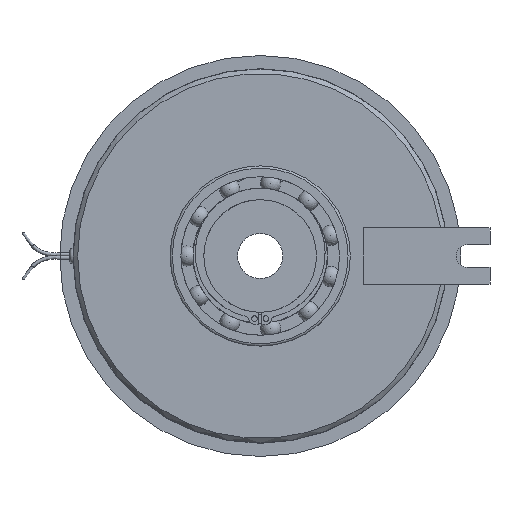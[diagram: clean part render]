
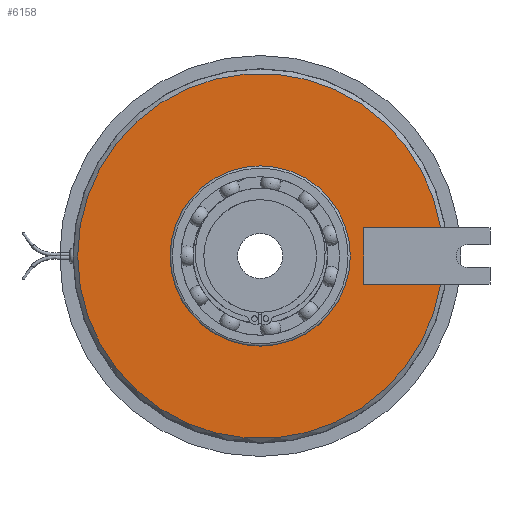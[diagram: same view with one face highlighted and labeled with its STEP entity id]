
A CAD part, left-side view. The second image highlights one B-rep face of the part: STEP entity #6158.
In plain terms, the highlighted planar face has unit normal (-1, 0, 0).
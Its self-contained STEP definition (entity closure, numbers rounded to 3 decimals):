
#139=FACE_BOUND('',#1064,.T.);
#283=PLANE('',#6785);
#686=FACE_OUTER_BOUND('',#1063,.T.);
#1063=EDGE_LOOP('',(#4850,#4851,#4852,#4853,#4854));
#1064=EDGE_LOOP('',(#4855));
#1716=CIRCLE('',#6786,81.);
#1717=CIRCLE('',#6787,81.);
#1718=CIRCLE('',#6788,40.);
#2123=LINE('',#10191,#2379);
#2124=LINE('',#10197,#2380);
#2125=LINE('',#10198,#2381);
#2379=VECTOR('',#8242,10.);
#2380=VECTOR('',#8247,10.);
#2381=VECTOR('',#8248,10.);
#2738=VERTEX_POINT('',#10189);
#2739=VERTEX_POINT('',#10190);
#2740=VERTEX_POINT('',#10192);
#2741=VERTEX_POINT('',#10194);
#2742=VERTEX_POINT('',#10196);
#2743=VERTEX_POINT('',#10199);
#3516=EDGE_CURVE('',#2738,#2739,#2123,.T.);
#3517=EDGE_CURVE('',#2740,#2739,#1716,.T.);
#3518=EDGE_CURVE('',#2741,#2740,#1717,.T.);
#3519=EDGE_CURVE('',#2741,#2742,#2124,.T.);
#3520=EDGE_CURVE('',#2742,#2738,#2125,.T.);
#3521=EDGE_CURVE('',#2743,#2743,#1718,.T.);
#4850=ORIENTED_EDGE('',*,*,#3516,.T.);
#4851=ORIENTED_EDGE('',*,*,#3517,.F.);
#4852=ORIENTED_EDGE('',*,*,#3518,.F.);
#4853=ORIENTED_EDGE('',*,*,#3519,.T.);
#4854=ORIENTED_EDGE('',*,*,#3520,.T.);
#4855=ORIENTED_EDGE('',*,*,#3521,.F.);
#6158=ADVANCED_FACE('',(#686,#139),#283,.T.);
#6785=AXIS2_PLACEMENT_3D('',#10188,#8240,#8241);
#6786=AXIS2_PLACEMENT_3D('',#10193,#8243,#8244);
#6787=AXIS2_PLACEMENT_3D('',#10195,#8245,#8246);
#6788=AXIS2_PLACEMENT_3D('',#10200,#8249,#8250);
#8240=DIRECTION('center_axis',(-1.,0.,0.));
#8241=DIRECTION('ref_axis',(0.,0.,
1.));
#8242=DIRECTION('',(0.,-1.,0.));
#8243=DIRECTION('center_axis',(1.,0.,0.));
#8244=DIRECTION('ref_axis',(0.,-1.,0.));
#8245=DIRECTION('center_axis',(1.,0.,0.));
#8246=DIRECTION('ref_axis',(0.,-1.,0.));
#8247=DIRECTION('',(0.,1.,0.));
#8248=DIRECTION('',(0.,0.,1.));
#8249=DIRECTION('center_axis',(-1.,0.,0.));
#8250=DIRECTION('ref_axis',(0.,1.,0.));
#10188=CARTESIAN_POINT('Origin',(-20.,42.5,0.));
#10189=CARTESIAN_POINT('',(-20.,-46.,12.5));
#10190=CARTESIAN_POINT('',(-20.,-80.03,12.5));
#10191=CARTESIAN_POINT('',(-20.,-1.75,12.5));
#10192=CARTESIAN_POINT('',(-20.,81.,0.));
#10193=CARTESIAN_POINT('Origin',(-20.,0.,0.));
#10194=CARTESIAN_POINT('',(-20.,-80.03,-12.5));
#10195=CARTESIAN_POINT('Origin',(-20.,0.,0.));
#10196=CARTESIAN_POINT('',(-20.,-46.,-12.5));
#10197=CARTESIAN_POINT('',(-20.,-29.75,-12.5));
#10198=CARTESIAN_POINT('',(-20.,-46.,-6.25));
#10199=CARTESIAN_POINT('',(-20.,-40.,0.));
#10200=CARTESIAN_POINT('Origin',(-20.,0.,0.));
